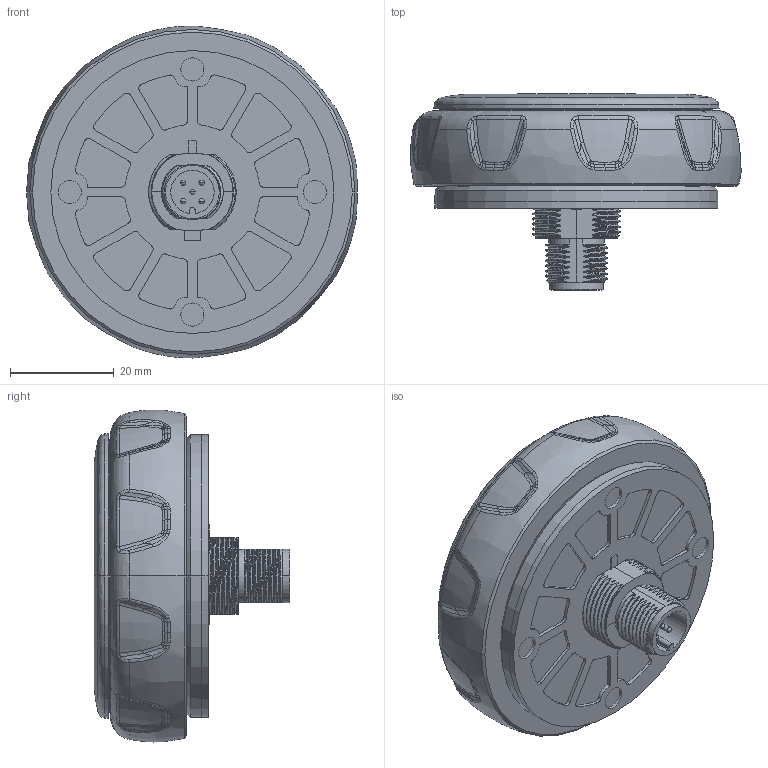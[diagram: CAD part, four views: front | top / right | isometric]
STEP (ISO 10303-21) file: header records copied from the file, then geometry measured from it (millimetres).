
FILE_DESCRIPTION((''),'2;1');
FILE_NAME('TE-MXXX1-XX1X','2025-06-17T',('tsifuent'),(''),'PRO/ENGINEER BY PARAMETRIC TECHNOLOGY CORPORATION, 2016100','PRO/ENGINEER BY PARAMETRIC TECHNOLOGY CORPORATION, 2016100','');
FILE_SCHEMA(('CONFIG_CONTROL_DESIGN'));
Products named in the file (1): TE-MXXX1-XX1X
Bounding box: 63.83 x 37.78 x 64.05 mm (x, y, z)
Volume: 62911.4 mm3; surface area: 11874.9 mm2
Topology: 1 solids, 1 shells, 702 faces, 1847 edges, 1163 vertices
Faces by surface type: bspline 407, cylinder 168, plane 72, cone 20, torus 13, extrusion 10, sphere 10, revolution 2
Entity records: 43078 total; most frequent: CARTESIAN_POINT 28455, ORIENTED_EDGE 3674, DIRECTION 2126, EDGE_CURVE 1837, VERTEX_POINT 1163, B_SPLINE_CURVE_WITH_KNOTS 848, AXIS2_PLACEMENT_3D 830, EDGE_LOOP 728
